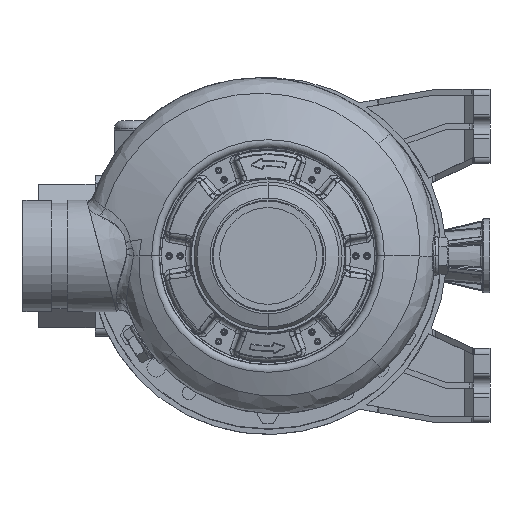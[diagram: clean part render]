
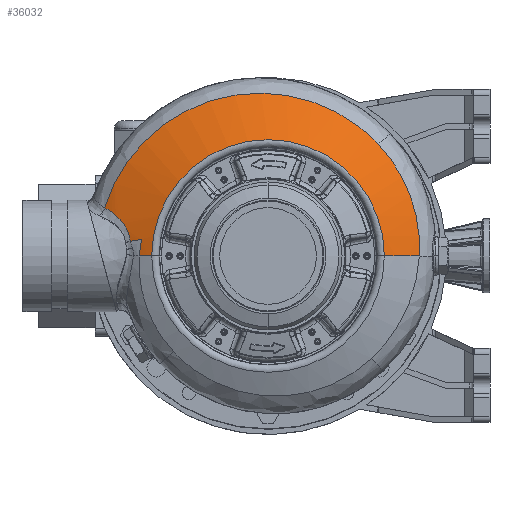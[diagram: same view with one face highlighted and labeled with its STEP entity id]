
A CAD part, left-side view. The second image highlights one B-rep face of the part: STEP entity #36032.
In plain terms, the highlighted spherical face has radius 172 mm.
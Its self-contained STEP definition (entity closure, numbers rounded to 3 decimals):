
#25399=CARTESIAN_POINT('',(0.,0.,36.093));
#25400=DIRECTION('',(0.,0.,-1.));
#25401=DIRECTION('',(0.,1.,0.));
#25402=AXIS2_PLACEMENT_3D('',#25399,#25400,#25401);
#25407=CARTESIAN_POINT('',(0.,0.,-124.));
#25408=DIRECTION('',(1.,0.,0.));
#25409=DIRECTION('',(0.,0.405,0.914));
#25410=AXIS2_PLACEMENT_3D('',#25407,#25408,#25409);
#25415=CARTESIAN_POINT('',(9.009,68.431,33.544));
#25416=CARTESIAN_POINT('',(8.266,68.578,33.522));
#25417=CARTESIAN_POINT('',(6.775,68.847,33.48));
#25418=CARTESIAN_POINT('',(4.526,69.175,33.417));
#25419=CARTESIAN_POINT('',(2.643,69.386,33.365));
#25420=CARTESIAN_POINT('',(1.134,69.517,33.323));
#25421=CARTESIAN_POINT('',(0.378,69.57,
33.302));
#25422=CARTESIAN_POINT('',(0.,69.594,
33.292));
#25427=CARTESIAN_POINT('',(9.009,68.431,33.544));
#25428=CARTESIAN_POINT('',(8.707,70.44,32.688));
#25429=CARTESIAN_POINT('',(8.356,72.427,31.799));
#25430=CARTESIAN_POINT('',(7.957,74.388,30.878));
#25435=CARTESIAN_POINT('',(7.957,74.388,30.878));
#25436=CARTESIAN_POINT('',(10.071,74.682,30.628));
#25437=CARTESIAN_POINT('',(14.185,75.867,29.757));
#25438=CARTESIAN_POINT('',(18.437,78.68,27.861));
#25439=CARTESIAN_POINT('',(21.255,81.382,26.042));
#25440=CARTESIAN_POINT('',(23.108,83.57,24.558));
#25441=CARTESIAN_POINT('',(24.422,85.507,23.235));
#25442=CARTESIAN_POINT('',(25.38,87.089,22.138));
#25443=CARTESIAN_POINT('',(25.789,87.907,21.573));
#25444=CARTESIAN_POINT('',(26.018,88.303,21.291));
#25449=CARTESIAN_POINT('',(26.018,88.303,21.291));
#25450=CARTESIAN_POINT('',(29.663,87.18,21.321));
#25451=CARTESIAN_POINT('',(36.812,84.458,21.395));
#25452=CARTESIAN_POINT('',(46.935,79.,21.547));
#25453=CARTESIAN_POINT('',(56.228,72.298,21.737));
#25454=CARTESIAN_POINT('',(64.596,64.424,21.962));
#25455=CARTESIAN_POINT('',(71.869,55.528,22.218));
#25456=CARTESIAN_POINT('',(77.927,45.75,22.5));
#25457=CARTESIAN_POINT('',(82.651,35.291,22.803));
#25458=CARTESIAN_POINT('',(85.978,24.305,23.123));
#25459=CARTESIAN_POINT('',(87.85,12.961,23.453));
#25460=CARTESIAN_POINT('',(88.229,1.46,23.789));
#25461=CARTESIAN_POINT('',(87.106,-9.991,
24.124));
#25462=CARTESIAN_POINT('',(84.51,-21.173,
24.451));
#25463=CARTESIAN_POINT('',(80.472,-31.944,
24.768));
#25464=CARTESIAN_POINT('',(75.076,-42.085,
25.066));
#25465=CARTESIAN_POINT('',(68.376,-51.473,
25.343));
#25466=CARTESIAN_POINT('',(63.161,-57.065,
25.509));
#25467=CARTESIAN_POINT('',(60.385,-59.678,
25.586));
#25472=CARTESIAN_POINT('',(60.385,-59.678,
25.586));
#25473=CARTESIAN_POINT('',(57.738,-62.171,
25.661));
#25474=CARTESIAN_POINT('',(52.092,-66.819,
25.819));
#25475=CARTESIAN_POINT('',(42.734,-72.619,
26.083));
#25476=CARTESIAN_POINT('',(32.595,-77.146,
26.37));
#25477=CARTESIAN_POINT('',(21.97,-80.25,
26.672));
#25478=CARTESIAN_POINT('',(11.026,-81.898,
26.983));
#25479=CARTESIAN_POINT('',(3.664,-82.005,
27.193));
#25480=CARTESIAN_POINT('',(0.,-81.811,
27.297));
#25485=CARTESIAN_POINT('',(0.,0.,-124.));
#25486=DIRECTION('',(-1.,0.,0.));
#25487=DIRECTION('',(0.,-0.476,0.88));
#25488=AXIS2_PLACEMENT_3D('',#25485,#25486,#25487);
#25517=CARTESIAN_POINT('',(0.,-81.811,
27.297));
#25640=CARTESIAN_POINT('',(7.957,74.388,30.878));
#25648=CARTESIAN_POINT('',(26.018,88.303,21.291));
#29422=VERTEX_POINT('',#25517);
#29423=VERTEX_POINT('',#25472);
#29426=VERTEX_POINT('',#25415);
#29427=VERTEX_POINT('',#25422);
#29467=VERTEX_POINT('',#25640);
#29469=VERTEX_POINT('',#25648);
#29547=CARTESIAN_POINT('',(0.,62.883,36.093));
#29548=CARTESIAN_POINT('',(0.,-62.883,36.093));
#29549=VERTEX_POINT('',#29547);
#29550=VERTEX_POINT('',#29548);
#36010=CARTESIAN_POINT('',(0.,0.,-124.));
#36011=DIRECTION('',(0.,0.,1.));
#36012=DIRECTION('',(0.,1.,0.));
#36013=AXIS2_PLACEMENT_3D('',#36010,#36011,#36012);
#36014=SPHERICAL_SURFACE('',#36013,172.);
#36016=ORIENTED_EDGE('',*,*,#36015,.F.);
#36018=ORIENTED_EDGE('',*,*,#36017,.F.);
#36020=ORIENTED_EDGE('',*,*,#36019,.F.);
#36022=ORIENTED_EDGE('',*,*,#36021,.T.);
#36024=ORIENTED_EDGE('',*,*,#36023,.T.);
#36026=ORIENTED_EDGE('',*,*,#36025,.T.);
#36027=ORIENTED_EDGE('',*,*,#36000,.T.);
#36029=ORIENTED_EDGE('',*,*,#36028,.T.);
#36030=EDGE_LOOP('',(#36016,#36018,#36020,#36022,#36024,#36026,#36027,#36029));
#36031=FACE_OUTER_BOUND('',#36030,.F.);
#25403=CIRCLE('',#25402,62.883);
#25411=CIRCLE('',#25410,172.);
#25423=B_SPLINE_CURVE_WITH_KNOTS('',3,(#25415,#25416,#25417,#25418,#25419,
#25420,#25421,#25422),.UNSPECIFIED.,.F.,.F.,(4,1,1,1,1,4),(0.,0.25,0.5,
0.75,0.875,1.),.UNSPECIFIED.);
#25431=B_SPLINE_CURVE_WITH_KNOTS('',3,(#25427,#25428,#25429,#25430),
.UNSPECIFIED.,.F.,.F.,(4,4),(0.,1.),.UNSPECIFIED.);
#25445=B_SPLINE_CURVE_WITH_KNOTS('',3,(#25435,#25436,#25437,#25438,#25439,
#25440,#25441,#25442,#25443,#25444),.UNSPECIFIED.,.F.,.F.,(4,1,1,1,1,1,1,4),(
0.,0.25,0.5,0.625,0.75,0.875,0.938,1.),.UNSPECIFIED.);
#25468=B_SPLINE_CURVE_WITH_KNOTS('',3,(#25449,#25450,#25451,#25452,#25453,
#25454,#25455,#25456,#25457,#25458,#25459,#25460,#25461,#25462,#25463,#25464,
#25465,#25466,#25467),.UNSPECIFIED.,.F.,.F.,(4,1,1,1,1,1,1,1,1,1,1,1,1,1,1,1,4),
(0.,0.063,0.125,0.188,0.25,0.313,0.375,0.438,0.5,0.563,
0.625,0.688,0.75,0.813,0.875,0.938,1.),.UNSPECIFIED.);
#25481=B_SPLINE_CURVE_WITH_KNOTS('',3,(#25472,#25473,#25474,#25475,#25476,
#25477,#25478,#25479,#25480),.UNSPECIFIED.,.F.,.F.,(4,1,1,1,1,1,4),(0.,
0.167,0.333,0.5,0.667,0.833,
1.),.UNSPECIFIED.);
#25489=CIRCLE('',#25488,172.);
#36000=EDGE_CURVE('',#29423,#29422,#25481,.T.);
#36015=EDGE_CURVE('',#29549,#29550,#25403,.T.);
#36017=EDGE_CURVE('',#29427,#29549,#25411,.T.);
#36019=EDGE_CURVE('',#29426,#29427,#25423,.T.);
#36021=EDGE_CURVE('',#29426,#29467,#25431,.T.);
#36023=EDGE_CURVE('',#29467,#29469,#25445,.T.);
#36025=EDGE_CURVE('',#29469,#29423,#25468,.T.);
#36028=EDGE_CURVE('',#29422,#29550,#25489,.T.);
#36032=ADVANCED_FACE('',(#36031),#36014,.T.);
